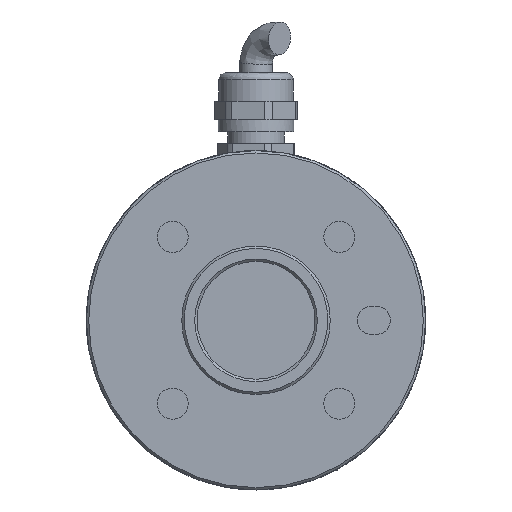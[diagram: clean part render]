
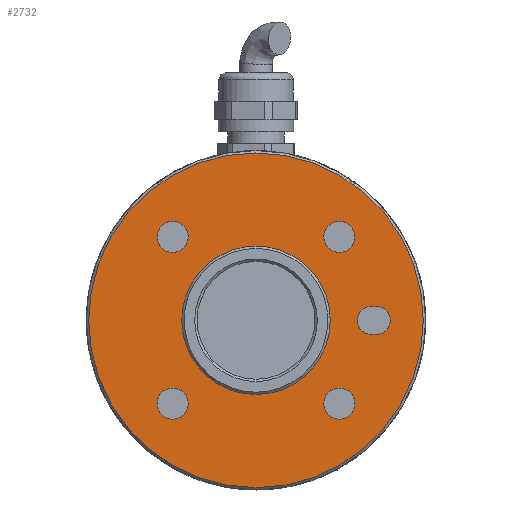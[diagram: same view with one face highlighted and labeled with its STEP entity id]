
A CAD part, front view. The second image highlights one B-rep face of the part: STEP entity #2732.
In plain terms, the highlighted planar face has unit normal (0, -1, 0).
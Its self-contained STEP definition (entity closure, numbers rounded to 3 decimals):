
#77 = CARTESIAN_POINT ( 'NONE',  ( 0., 0., 15.75 ) ) ;
#319 = VECTOR ( 'NONE', #5002, 1000. ) ;
#409 = EDGE_CURVE ( 'NONE', #4851, #4851, #9445, .T. ) ;
#546 = AXIS2_PLACEMENT_3D ( 'NONE', #1933, #9397, #1028 ) ;
#833 = ORIENTED_EDGE ( 'NONE', *, *, #3635, .T. ) ;
#874 = CARTESIAN_POINT ( 'NONE',  ( 0., 0., 24.5 ) ) ;
#1028 = DIRECTION ( 'NONE',  ( 0., 0., 1. ) ) ;
#1115 = CIRCLE ( 'NONE', #3678, 3. ) ;
#1248 = DIRECTION ( 'NONE',  ( 0., 0., 1. ) ) ;
#1267 = EDGE_CURVE ( 'NONE', #3544, #2561, #3895, .T. ) ;
#1310 = CIRCLE ( 'NONE', #1468, 3. ) ;
#1468 = AXIS2_PLACEMENT_3D ( 'NONE', #4027, #9242, #5430 ) ;
#1533 = CARTESIAN_POINT ( 'NONE',  ( 0., 0., 35.5 ) ) ;
#1570 = EDGE_CURVE ( 'NONE', #3544, #6882, #1310, .T. ) ;
#1591 = EDGE_LOOP ( 'NONE', ( #2101 ) ) ;
#1785 = DIRECTION ( 'NONE',  ( 0., 0., 1. ) ) ;
#1802 = DIRECTION ( 'NONE',  ( 0., 0., 1. ) ) ;
#1933 = CARTESIAN_POINT ( 'NONE',  ( 0., 0., 0. ) ) ;
#2041 = CARTESIAN_POINT ( 'NONE',  ( 17.678, 0., 20.978 ) ) ;
#2101 = ORIENTED_EDGE ( 'NONE', *, *, #409, .T. ) ;
#2394 = DIRECTION ( 'NONE',  ( 0., 0., -1. ) ) ;
#2482 = FACE_BOUND ( 'NONE', #7462, .T. ) ;
#2514 = CARTESIAN_POINT ( 'NONE',  ( 17.678, 0., -17.678 ) ) ;
#2526 = ORIENTED_EDGE ( 'NONE', *, *, #1570, .F. ) ;
#2529 = CARTESIAN_POINT ( 'NONE',  ( -3., 0., 24.5 ) ) ;
#2547 = CARTESIAN_POINT ( 'NONE',  ( 3., 0., 24.5 ) ) ;
#2555 = CARTESIAN_POINT ( 'NONE',  ( -17.678, 0., 17.678 ) ) ;
#2561 = VERTEX_POINT ( 'NONE', #2547 ) ;
#2732 = ADVANCED_FACE ( 'NONE', ( #4733, #3983, #7139, #2482, #4783, #7093, #5634 ), #6235, .F. ) ;
#3067 = EDGE_LOOP ( 'NONE', ( #3486 ) ) ;
#3204 = DIRECTION ( 'NONE',  ( 0., 0., 1. ) ) ;
#3330 = DIRECTION ( 'NONE',  ( 0., 1., 0. ) ) ;
#3364 = DIRECTION ( 'NONE',  ( 0., 0., 1. ) ) ;
#3419 = EDGE_CURVE ( 'NONE', #7108, #7108, #5422, .T. ) ;
#3486 = ORIENTED_EDGE ( 'NONE', *, *, #3419, .T. ) ;
#3544 = VERTEX_POINT ( 'NONE', #6504 ) ;
#3585 = ORIENTED_EDGE ( 'NONE', *, *, #6476, .T. ) ;
#3610 = DIRECTION ( 'NONE',  ( 0., 1., 0. ) ) ;
#3630 = EDGE_LOOP ( 'NONE', ( #7779 ) ) ;
#3635 = EDGE_CURVE ( 'NONE', #7912, #7912, #4776, .T. ) ;
#3678 = AXIS2_PLACEMENT_3D ( 'NONE', #874, #5485, #6987 ) ;
#3877 = VERTEX_POINT ( 'NONE', #77 ) ;
#3895 = LINE ( 'NONE', #6291, #8668 ) ;
#3983 = FACE_BOUND ( 'NONE', #7563, .T. ) ;
#3995 = ORIENTED_EDGE ( 'NONE', *, *, #1267, .T. ) ;
#4027 = CARTESIAN_POINT ( 'NONE',  ( 0., 0., 25.5 ) ) ;
#4099 = CARTESIAN_POINT ( 'NONE',  ( -17.678, 0., -14.378 ) ) ;
#4260 = CARTESIAN_POINT ( 'NONE',  ( 0., 0., 0. ) ) ;
#4383 = CIRCLE ( 'NONE', #546, 35.5 ) ;
#4701 = CIRCLE ( 'NONE', #7268, 3.3 ) ;
#4733 = FACE_BOUND ( 'NONE', #3630, .T. ) ;
#4776 = CIRCLE ( 'NONE', #6058, 3.3 ) ;
#4783 = FACE_BOUND ( 'NONE', #3067, .T. ) ;
#4851 = VERTEX_POINT ( 'NONE', #4099 ) ;
#4973 = DIRECTION ( 'NONE',  ( 0., 1., 0. ) ) ;
#5002 = DIRECTION ( 'NONE',  ( 0., 0., 1. ) ) ;
#5125 = AXIS2_PLACEMENT_3D ( 'NONE', #5655, #5459, #3204 ) ;
#5133 = EDGE_CURVE ( 'NONE', #6657, #6657, #4701, .T. ) ;
#5365 = EDGE_CURVE ( 'NONE', #9717, #9717, #4383, .T. ) ;
#5422 = CIRCLE ( 'NONE', #6383, 3.3 ) ;
#5430 = DIRECTION ( 'NONE',  ( 0., 0., -1. ) ) ;
#5459 = DIRECTION ( 'NONE',  ( 0., 1., 0. ) ) ;
#5485 = DIRECTION ( 'NONE',  ( 0., -1., 0. ) ) ;
#5516 = EDGE_LOOP ( 'NONE', ( #6418 ) ) ;
#5605 = DIRECTION ( 'NONE',  ( 0., 1., 0. ) ) ;
#5634 = FACE_BOUND ( 'NONE', #1591, .T. ) ;
#5655 = CARTESIAN_POINT ( 'NONE',  ( -17.678, 0., -17.678 ) ) ;
#5657 = ORIENTED_EDGE ( 'NONE', *, *, #5133, .T. ) ;
#5747 = LINE ( 'NONE', #7153, #319 ) ;
#5775 = VERTEX_POINT ( 'NONE', #2529 ) ;
#6058 = AXIS2_PLACEMENT_3D ( 'NONE', #2514, #4973, #9537 ) ;
#6235 = PLANE ( 'NONE',  #7342 ) ;
#6291 = CARTESIAN_POINT ( 'NONE',  ( 3., 0., 25.5 ) ) ;
#6300 = CARTESIAN_POINT ( 'NONE',  ( -17.678, 0., 20.978 ) ) ;
#6383 = AXIS2_PLACEMENT_3D ( 'NONE', #2555, #5605, #1802 ) ;
#6418 = ORIENTED_EDGE ( 'NONE', *, *, #5365, .F. ) ;
#6434 = EDGE_LOOP ( 'NONE', ( #833 ) ) ;
#6476 = EDGE_CURVE ( 'NONE', #5775, #6882, #5747, .T. ) ;
#6504 = CARTESIAN_POINT ( 'NONE',  ( 3., 0., 25.5 ) ) ;
#6657 = VERTEX_POINT ( 'NONE', #2041 ) ;
#6882 = VERTEX_POINT ( 'NONE', #9205 ) ;
#6987 = DIRECTION ( 'NONE',  ( 0., 0., -1. ) ) ;
#7014 = EDGE_CURVE ( 'NONE', #5775, #2561, #1115, .T. ) ;
#7093 = FACE_BOUND ( 'NONE', #6434, .T. ) ;
#7108 = VERTEX_POINT ( 'NONE', #6300 ) ;
#7139 = FACE_OUTER_BOUND ( 'NONE', #5516, .T. ) ;
#7153 = CARTESIAN_POINT ( 'NONE',  ( -3., 0., 25.5 ) ) ;
#7268 = AXIS2_PLACEMENT_3D ( 'NONE', #8121, #3610, #1248 ) ;
#7322 = DIRECTION ( 'NONE',  ( 0., -1., 0. ) ) ;
#7342 = AXIS2_PLACEMENT_3D ( 'NONE', #8706, #3330, #1785 ) ;
#7462 = EDGE_LOOP ( 'NONE', ( #5657 ) ) ;
#7563 = EDGE_LOOP ( 'NONE', ( #8833, #3585, #2526, #3995 ) ) ;
#7779 = ORIENTED_EDGE ( 'NONE', *, *, #9456, .F. ) ;
#7912 = VERTEX_POINT ( 'NONE', #9471 ) ;
#7987 = CIRCLE ( 'NONE', #8794, 15.75 ) ;
#8121 = CARTESIAN_POINT ( 'NONE',  ( 17.678, 0., 17.678 ) ) ;
#8668 = VECTOR ( 'NONE', #2394, 1000. ) ;
#8706 = CARTESIAN_POINT ( 'NONE',  ( 0., 0., 0. ) ) ;
#8794 = AXIS2_PLACEMENT_3D ( 'NONE', #4260, #7322, #3364 ) ;
#8833 = ORIENTED_EDGE ( 'NONE', *, *, #7014, .F. ) ;
#9205 = CARTESIAN_POINT ( 'NONE',  ( -3., 0., 25.5 ) ) ;
#9242 = DIRECTION ( 'NONE',  ( 0., -1., 0. ) ) ;
#9397 = DIRECTION ( 'NONE',  ( 0., 1., 0. ) ) ;
#9445 = CIRCLE ( 'NONE', #5125, 3.3 ) ;
#9456 = EDGE_CURVE ( 'NONE', #3877, #3877, #7987, .T. ) ;
#9471 = CARTESIAN_POINT ( 'NONE',  ( 17.678, 0., -14.378 ) ) ;
#9537 = DIRECTION ( 'NONE',  ( 0., 0., 1. ) ) ;
#9717 = VERTEX_POINT ( 'NONE', #1533 ) ;
